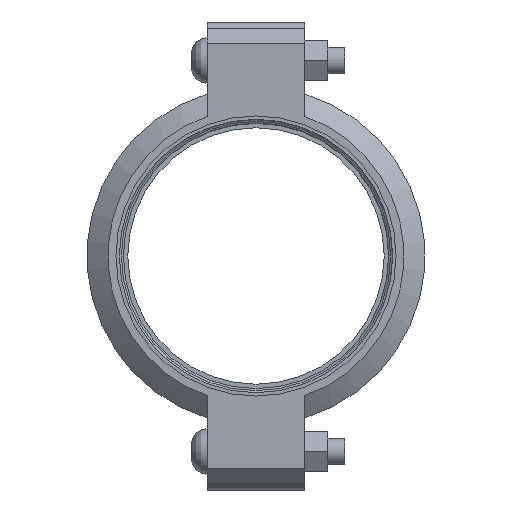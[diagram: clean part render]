
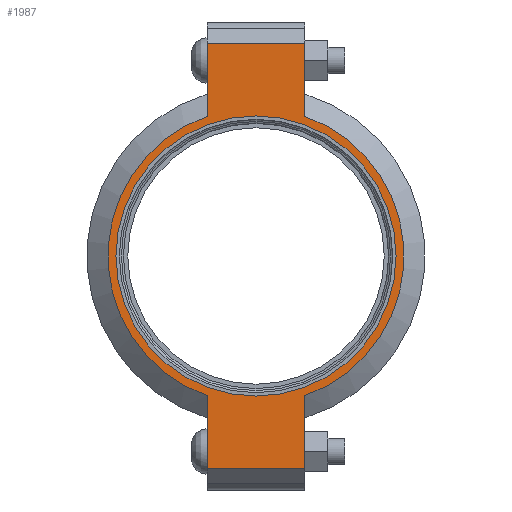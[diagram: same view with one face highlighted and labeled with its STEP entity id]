
A CAD part, left-side view. The second image highlights one B-rep face of the part: STEP entity #1987.
In plain terms, the highlighted planar face has unit normal (-1, 0, 0) as drawn and (0, 0, 1) by its records, which use the part's own axes.
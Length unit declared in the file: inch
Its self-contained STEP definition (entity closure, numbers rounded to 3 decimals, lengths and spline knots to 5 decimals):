
#176=LINE('',#3521,#273);
#184=LINE('',#3557,#281);
#191=LINE('',#3578,#288);
#200=LINE('',#3610,#297);
#201=LINE('',#3614,#298);
#202=LINE('',#3616,#299);
#273=VECTOR('',#2865,0.3937);
#281=VECTOR('',#2881,0.3937);
#288=VECTOR('',#2900,0.3937);
#297=VECTOR('',#2925,0.3937);
#298=VECTOR('',#2930,0.3937);
#299=VECTOR('',#2931,0.3937);
#355=FACE_BOUND('',#605,.T.);
#399=PLANE('',#2326);
#487=FACE_OUTER_BOUND('',#604,.T.);
#604=EDGE_LOOP('',(#1708,#1709,#1710,#1711,#1712,#1713,#1714,#1715));
#605=EDGE_LOOP('',(#1716));
#777=CIRCLE('',#2327,3.5);
#778=CIRCLE('',#2328,3.5);
#779=CIRCLE('',#2329,3.3125);
#941=VERTEX_POINT('',#3518);
#942=VERTEX_POINT('',#3520);
#953=VERTEX_POINT('',#3552);
#954=VERTEX_POINT('',#3556);
#961=VERTEX_POINT('',#3575);
#962=VERTEX_POINT('',#3577);
#972=VERTEX_POINT('',#3613);
#973=VERTEX_POINT('',#3615);
#974=VERTEX_POINT('',#3618);
#1186=EDGE_CURVE('',#942,#941,#176,.T.);
#1200=EDGE_CURVE('',#954,#953,#184,.T.);
#1210=EDGE_CURVE('',#962,#961,#191,.T.);
#1225=EDGE_CURVE('',#954,#941,#200,.T.);
#1226=EDGE_CURVE('',#953,#962,#777,.T.);
#1227=EDGE_CURVE('',#972,#961,#201,.T.);
#1228=EDGE_CURVE('',#972,#973,#202,.T.);
#1229=EDGE_CURVE('',#973,#942,#778,.T.);
#1230=EDGE_CURVE('',#974,#974,#779,.T.);
#1708=ORIENTED_EDGE('',*,*,#1225,.F.);
#1709=ORIENTED_EDGE('',*,*,#1200,.T.);
#1710=ORIENTED_EDGE('',*,*,#1226,.T.);
#1711=ORIENTED_EDGE('',*,*,#1210,.T.);
#1712=ORIENTED_EDGE('',*,*,#1227,.F.);
#1713=ORIENTED_EDGE('',*,*,#1228,.T.);
#1714=ORIENTED_EDGE('',*,*,#1229,.T.);
#1715=ORIENTED_EDGE('',*,*,#1186,.T.);
#1716=ORIENTED_EDGE('',*,*,#1230,.T.);
#1987=ADVANCED_FACE('',(#487,#355),#399,.T.);
#2326=AXIS2_PLACEMENT_3D('',#3611,#2926,#2927);
#2327=AXIS2_PLACEMENT_3D('',#3612,#2928,#2929);
#2328=AXIS2_PLACEMENT_3D('',#3617,#2932,#2933);
#2329=AXIS2_PLACEMENT_3D('',#3619,#2934,#2935);
#2865=DIRECTION('',(1.,0.,0.));
#2881=DIRECTION('',(-1.,0.,0.));
#2900=DIRECTION('',(-1.,0.,0.));
#2925=DIRECTION('',(0.,-1.,0.));
#2926=DIRECTION('center_axis',(0.,0.,1.));
#2927=DIRECTION('ref_axis',(-1.,0.,0.));
#2928=DIRECTION('center_axis',(0.,0.,1.));
#2929=DIRECTION('ref_axis',(1.,0.,0.));
#2930=DIRECTION('',(0.,1.,0.));
#2931=DIRECTION('',(1.,0.,0.));
#2932=DIRECTION('center_axis',(0.,0.,1.));
#2933=DIRECTION('ref_axis',(1.,0.,0.));
#2934=DIRECTION('center_axis',(0.,0.,-1.));
#2935=DIRECTION('ref_axis',(1.,0.,0.));
#3518=CARTESIAN_POINT('',(5.035,-1.156,1.065));
#3520=CARTESIAN_POINT('',(3.30358,-1.156,1.065));
#3521=CARTESIAN_POINT('',(5.535,-1.156,1.065));
#3552=CARTESIAN_POINT('',(3.30358,1.156,1.065));
#3556=CARTESIAN_POINT('',(5.035,1.156,1.065));
#3557=CARTESIAN_POINT('',(-5.535,1.156,1.065));
#3575=CARTESIAN_POINT('',(-5.035,1.156,1.065));
#3577=CARTESIAN_POINT('',(-3.30358,1.156,1.065));
#3578=CARTESIAN_POINT('',(-5.535,1.156,1.065));
#3610=CARTESIAN_POINT('',(5.035,-0.578,1.065));
#3611=CARTESIAN_POINT('Origin',(0.,0.,
1.065));
#3612=CARTESIAN_POINT('Origin',(0.,0.,1.065));
#3613=CARTESIAN_POINT('',(-5.035,-1.156,1.065));
#3614=CARTESIAN_POINT('',(-5.035,0.578,1.065));
#3615=CARTESIAN_POINT('',(-3.30358,-1.156,1.065));
#3616=CARTESIAN_POINT('',(5.535,-1.156,1.065));
#3617=CARTESIAN_POINT('Origin',(0.,0.,1.065));
#3618=CARTESIAN_POINT('',(-3.3125,0.,1.065));
#3619=CARTESIAN_POINT('Origin',(0.,0.,1.065));
